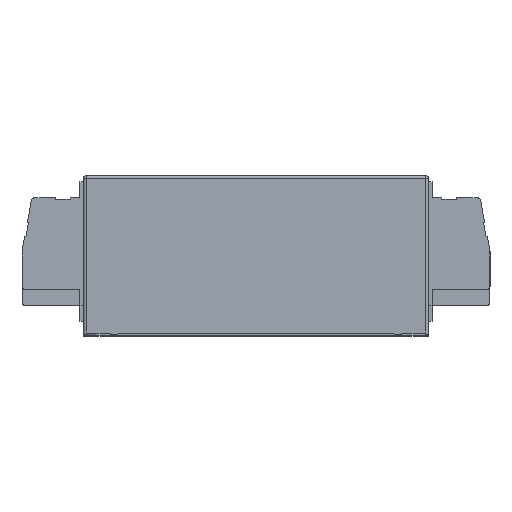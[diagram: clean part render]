
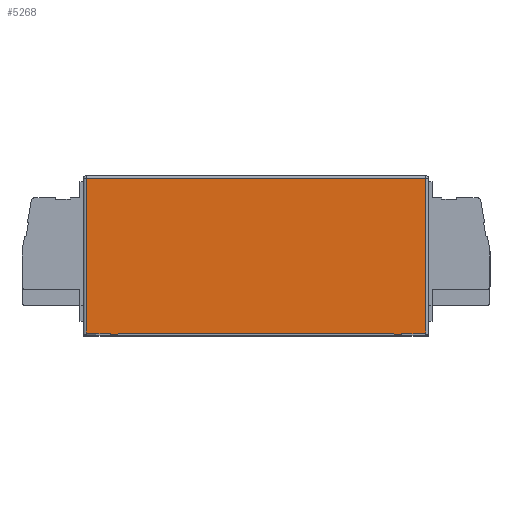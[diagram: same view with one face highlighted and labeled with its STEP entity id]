
A CAD part, top view. The second image highlights one B-rep face of the part: STEP entity #5268.
In plain terms, the highlighted planar face has unit normal (0, 0, 1).
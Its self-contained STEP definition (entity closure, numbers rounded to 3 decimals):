
#104 = ORIENTED_EDGE ( 'NONE', *, *, #9225, .T. ) ;
#137 = DIRECTION ( 'NONE',  ( 0., -1., 0. ) ) ;
#664 = ORIENTED_EDGE ( 'NONE', *, *, #8447, .T. ) ;
#780 = EDGE_LOOP ( 'NONE', ( #1197, #664, #104, #8095 ) ) ;
#863 = LINE ( 'NONE', #6025, #9437 ) ;
#1197 = ORIENTED_EDGE ( 'NONE', *, *, #5256, .T. ) ;
#1591 = EDGE_CURVE ( 'NONE', #6280, #9424, #9877, .T. ) ;
#1688 = CARTESIAN_POINT ( 'NONE',  ( 278., 130., -13.5 ) ) ;
#1778 = VERTEX_POINT ( 'NONE', #5272 ) ;
#1870 = DIRECTION ( 'NONE',  ( 1., 0., 0. ) ) ;
#2473 = LINE ( 'NONE', #9598, #4429 ) ;
#2677 = AXIS2_PLACEMENT_3D ( 'NONE', #10443, #7235, #5464 ) ;
#2725 = CARTESIAN_POINT ( 'NONE',  ( 278., 1.5, -13.5 ) ) ;
#3178 = CARTESIAN_POINT ( 'NONE',  ( 278., 128., -13.5 ) ) ;
#3456 = LINE ( 'NONE', #10092, #9826 ) ;
#3490 = VERTEX_POINT ( 'NONE', #7043 ) ;
#3915 = VECTOR ( 'NONE', #5035, 1000. ) ;
#4429 = VECTOR ( 'NONE', #8856, 1000. ) ;
#5035 = DIRECTION ( 'NONE',  ( 0., 1., 0. ) ) ;
#5256 = EDGE_CURVE ( 'NONE', #9424, #1778, #2473, .T. ) ;
#5268 = ADVANCED_FACE ( 'NONE', ( #6914 ), #8041, .F. ) ;
#5272 = CARTESIAN_POINT ( 'NONE',  ( 2., 128., -13.5 ) ) ;
#5464 = DIRECTION ( 'NONE',  ( -1., 0., 0. ) ) ;
#6025 = CARTESIAN_POINT ( 'NONE',  ( 0., 1.5, -13.5 ) ) ;
#6280 = VERTEX_POINT ( 'NONE', #2725 ) ;
#6914 = FACE_OUTER_BOUND ( 'NONE', #780, .T. ) ;
#7043 = CARTESIAN_POINT ( 'NONE',  ( 2., 1.5, -13.5 ) ) ;
#7235 = DIRECTION ( 'NONE',  ( 0., 0., -1. ) ) ;
#8041 = PLANE ( 'NONE',  #2677 ) ;
#8095 = ORIENTED_EDGE ( 'NONE', *, *, #1591, .T. ) ;
#8447 = EDGE_CURVE ( 'NONE', #1778, #3490, #3456, .T. ) ;
#8856 = DIRECTION ( 'NONE',  ( -1., 0., 0. ) ) ;
#9225 = EDGE_CURVE ( 'NONE', #3490, #6280, #863, .T. ) ;
#9424 = VERTEX_POINT ( 'NONE', #3178 ) ;
#9437 = VECTOR ( 'NONE', #1870, 1000. ) ;
#9598 = CARTESIAN_POINT ( 'NONE',  ( 0., 128., -13.5 ) ) ;
#9826 = VECTOR ( 'NONE', #137, 1000. ) ;
#9877 = LINE ( 'NONE', #1688, #3915 ) ;
#10092 = CARTESIAN_POINT ( 'NONE',  ( 2., 130., -13.5 ) ) ;
#10443 = CARTESIAN_POINT ( 'NONE',  ( 0., 130., -13.5 ) ) ;
